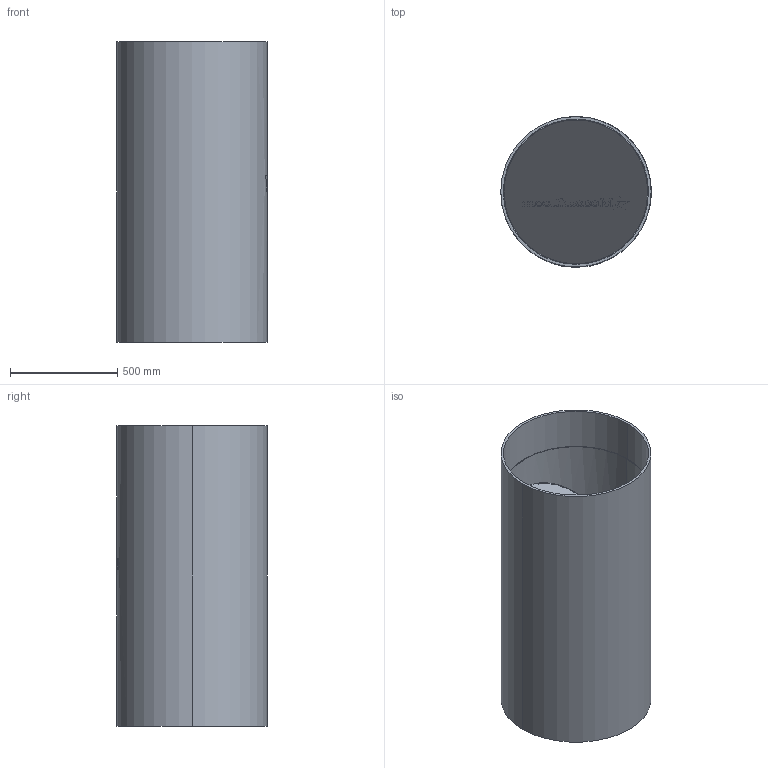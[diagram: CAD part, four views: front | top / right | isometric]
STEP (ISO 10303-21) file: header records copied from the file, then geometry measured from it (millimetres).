
FILE_DESCRIPTION (( 'STEP AP214' ), '1' );
FILE_NAME ('CF-IL-G5-S0700-NN-316-IDP.STEP', '2023-03-21T12:38:16', ( '' ), ( '' ), 'SwSTEP 2.0', 'SolidWorks 2022', '' );
FILE_SCHEMA (( 'AUTOMOTIVE_DESIGN' ));
Length unit declared in the file: millimetre
Products named in the file (3): CF-IL-G5-S0700-NN-316-IDP; CF-IL-G5-S0700-NN-316-IDP_CM-0100-B; Clamp- 700_700
Assembly tree (3 placements, depth 2):
  CF-IL-G5-S0700-NN-316-IDP
    CF-IL-G5-S0700-NN-316-IDP_CM-0100-B
    Clamp- 700_700  x2
Bounding box: 700.49 x 700.5 x 1400 mm (x, y, z)
Volume: 47087287.3 mm3; surface area: 7769100.1 mm2
Topology: 11 solids, 11 shells, 2014 faces, 5584 edges, 3629 vertices
Faces by surface type: plane 816, bspline 671, cone 270, cylinder 257
Entity records: 77059 total; most frequent: CARTESIAN_POINT 22887, ORIENTED_EDGE 9836, DIRECTION 5058, EDGE_CURVE 4918, VERTEX_POINT 3248, LINE 2280, VECTOR 2280, B_SPLINE_CURVE_WITH_KNOTS 2278
